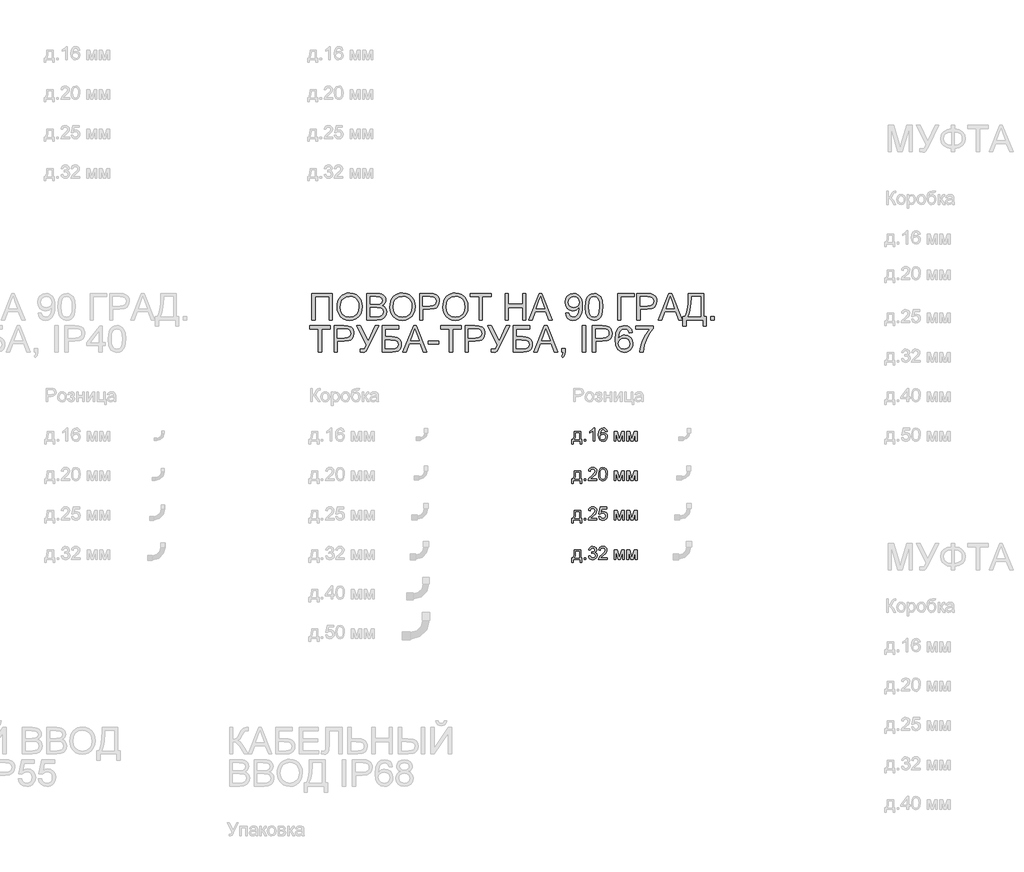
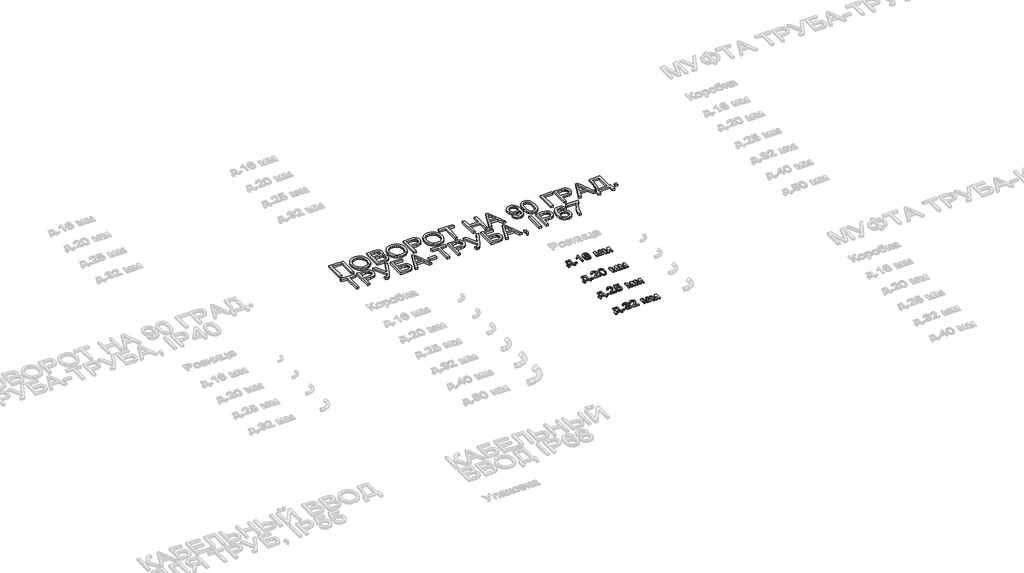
# One storey, part 66 of 98: 5 proxies.
"""IFC4 building model written with IfcOpenShell, lengths in millimetres."""

from ifc_helpers import new_model, si_unit, origin, origin_with_axes, place, context, project, spatial, polyline, outline, extrude, element, save

model = new_model("IFC4")

# Units and contexts
model_context = context("Model", 3, world=origin())
ifc_project = project(units=[si_unit("LENGTHUNIT", "METRE", prefix="MILLI")], contexts=[model_context])

# Site, building, storey
site = spatial("IfcSite", under=ifc_project)
building = spatial("IfcBuilding", under=site)
storey = spatial("IfcBuildingStorey", under=building, Name="Этаж 01", Elevation=0.0)

# Proxies
placement = place(None, origin())
element("IfcBuildingElementProxy", 1, Name="100", ObjectType="100", at=placement, inside=storey, context=model_context, shape_type="SweptSolid", body=[
    extrude(outline(polyline([(5978.0527037, -20985.7395637), (6025.1415991, -20985.7395637), (6025.1415991, -21046.9551277), (6034.5593781, -21046.9551277), (6034.5593781, -21079.9173545), (6022.0023394, -21079.9173545), (6022.0023394, -21059.5121665), (5970.2045544, -21059.5121665), (5970.2045544, -21079.9173545), (5957.6475157, -21079.9173545), (5957.6475157, -21046.9551277), (5965.4956649, -21046.9551277), (5975.1954868, -21023.0060098), (5978.0527037, -20985.7395637)]), holes=[polyline([(5989.0401126, -20998.2966025), (5986.0970566, -21026.905559), (5979.6223335, -21046.9551277), (6012.5845603, -21046.9551277), (6012.5845603, -20998.2966025), (5989.0401126, -20998.2966025)])]), origin_with_axes(), (0.0, 0.0, 1.0), 10.0),
    extrude(outline(polyline([(6051.8253064, -21059.5121665), (6051.8253064, -21046.9551277), (6064.3823452, -21046.9551277), (6064.3823452, -21059.5121665), (6051.8253064, -21059.5121665)])), origin_with_axes(), (0.0, 0.0, 1.0), 10.0),
    extrude(outline(polyline([(6131.8764286, -21059.5121665), (6119.3193898, -21059.5121665), (6119.3193898, -20981.2268779), (6107.4245386, -20989.7004265), (6094.2053123, -20996.0402596), (6094.2053123, -20984.1699338), (6112.6116748, -20972.4222355), (6123.7830247, -20959.0558563), (6131.8764286, -20959.0558563), (6131.8764286, -21059.5121665)])), origin_with_axes(), (0.0, 0.0, 1.0), 10.0),
    extrude(outline(polyline([(6226.0542194, -20985.7395637), (6213.4971806, -20987.3091935), (6208.7392401, -20976.8368194), (6196.1576759, -20971.6128951), (6184.8269104, -20974.6540529), (6176.2552599, -20986.0706575), (6172.6868046, -21008.4501455), (6183.7600526, -20998.4314925), (6197.4820511, -20995.1573428), (6209.0825966, -20997.3952916), (6218.8192068, -21004.109138), (6225.4226886, -21014.3669143), (6227.6238492, -21027.2366527), (6223.4790454, -21044.5638947), (6212.0747035, -21056.8266279), (6195.6181156, -21061.0817963), (6181.3718854, -21058.2613677), (6170.0257915, -21049.8000818), (6162.6037722, -21034.8640728), (6160.1297658, -21012.6194748), (6162.8766181, -20987.6096305), (6171.1171747, -20970.5092491), (6182.3682324, -20961.9192045), (6196.9424908, -20959.0558563), (6207.9605566, -20960.8278213), (6216.7835931, -20966.1437161), (6222.9640106, -20974.5866079), (6226.0542194, -20985.7395637)]), holes=[polyline([(6172.6868046, -21027.040449), (6175.5930724, -21037.9174933), (6183.3185942, -21045.8146935), (6194.637097, -21048.5247575), (6202.9236389, -21047.1206746), (6209.4382159, -21042.9084257), (6213.6596618, -21036.2865498), (6215.0668104, -21027.6535857), (6213.6780559, -21019.3670437), (6209.5117923, -21013.0486705), (6202.8868507, -21009.0479538), (6194.1220622, -21007.7143815), (6178.9285358, -21013.0486705), (6174.2472374, -21019.2137596), (6172.6868046, -21027.040449)])]), origin_with_axes(), (0.0, 0.0, 1.0), 10.0),
    extrude(outline(polyline([(6280.991264, -20985.7395637), (6302.5981998, -20985.7395637), (6319.2509915, -21044.7968867), (6337.2036328, -20985.7395637), (6357.9031264, -20985.7395637), (6357.9031264, -21059.5121665), (6345.3460877, -21059.5121665), (6345.3460877, -21000.111487), (6327.2953444, -21059.5121665), (6310.814231, -21059.5121665), (6293.5483027, -20997.2665329), (6293.5483027, -21059.5121665), (6280.991264, -21059.5121665), (6280.991264, -20985.7395637)])), origin_with_axes(), (0.0, 0.0, 1.0), 10.0),
    extrude(outline(polyline([(6376.7386846, -20985.7395637), (6398.3456204, -20985.7395637), (6414.9984121, -21044.7968867), (6432.9510534, -20985.7395637), (6453.650547, -20985.7395637), (6453.650547, -21059.5121665), (6441.0935083, -21059.5121665), (6441.0935083, -21000.111487), (6423.042765, -21059.5121665), (6406.5616517, -21059.5121665), (6389.2957233, -20997.2665329), (6389.2957233, -21059.5121665), (6376.7386846, -21059.5121665), (6376.7386846, -20985.7395637)])), origin_with_axes(), (0.0, 0.0, 1.0), 10.0),
])
element("IfcBuildingElementProxy", 2, Name="100", ObjectType="100", at=placement, inside=storey, context=model_context, shape_type="SweptSolid", body=[
    extrude(outline(polyline([(5978.0527037, -21285.7395637), (6025.1415991, -21285.7395637), (6025.1415991, -21346.9551277), (6034.5593781, -21346.9551277), (6034.5593781, -21379.9173545), (6022.0023394, -21379.9173545), (6022.0023394, -21359.5121665), (5970.2045544, -21359.5121665), (5970.2045544, -21379.9173545), (5957.6475157, -21379.9173545), (5957.6475157, -21346.9551277), (5965.4956649, -21346.9551277), (5975.1954868, -21323.0060098), (5978.0527037, -21285.7395637)]), holes=[polyline([(5989.0401126, -21298.2966025), (5986.0970566, -21326.905559), (5979.6223335, -21346.9551277), (6012.5845603, -21346.9551277), (6012.5845603, -21298.2966025), (5989.0401126, -21298.2966025)])]), origin_with_axes(), (0.0, 0.0, 1.0), 10.0),
    extrude(outline(polyline([(6051.8253064, -21359.5121665), (6051.8253064, -21346.9551277), (6064.3823452, -21346.9551277), (6064.3823452, -21359.5121665), (6051.8253064, -21359.5121665)])), origin_with_axes(), (0.0, 0.0, 1.0), 10.0),
    extrude(outline(polyline([(6149.1423569, -21346.9551277), (6149.1423569, -21359.5121665), (6083.2179034, -21359.5121665), (6084.566804, -21350.8546768), (6092.194224, -21337.5250859), (6107.915048, -21322.9692216), (6129.5955602, -21302.0489988), (6135.0156883, -21287.8242283), (6129.9021285, -21276.3095219), (6116.5480121, -21271.6128951), (6102.62981, -21276.1991573), (6097.344572, -21288.8788234), (6084.7875332, -21287.3091935), (6087.8317567, -21275.1629563), (6094.4137787, -21266.2908689), (6104.1902428, -21260.8646095), (6116.8177923, -21259.0558563), (6129.5373122, -21261.0669445), (6139.2953822, -21267.1002093), (6145.5033908, -21276.1133182), (6147.5727271, -21287.0639389), (6145.3409096, -21298.9710528), (6137.921956, -21311.2828369), (6119.9325265, -21328.4874515), (6105.4870268, -21340.5662437), (6099.8216441, -21346.9551277), (6149.1423569, -21346.9551277)])), origin_with_axes(), (0.0, 0.0, 1.0), 10.0),
    extrude(outline(polyline([(6161.6993957, -21310.0933518), (6165.3904784, -21281.1900897), (6176.3533618, -21264.5250353), (6194.6616224, -21259.0558563), (6209.3278513, -21262.2932179), (6219.4568689, -21271.6251578), (6225.3429808, -21286.4875904), (6227.6238492, -21310.0933518), (6223.9695547, -21338.8739865), (6213.0434595, -21355.5758291), (6204.8120998, -21359.7053045), (6194.6616224, -21361.0817963), (6181.6140743, -21358.6905633), (6171.7057859, -21351.5168644), (6164.2009932, -21334.5268476), (6161.6993957, -21310.0933518)]), holes=[polyline([(6174.2564344, -21310.0688263), (6175.7279624, -21329.8210238), (6180.1425464, -21341.2529568), (6186.7153713, -21346.7068073), (6194.6616224, -21348.5247575), (6202.6078735, -21346.700676), (6209.1806985, -21341.2284313), (6213.5952825, -21329.7903669), (6215.0668104, -21310.0688263), (6213.6443334, -21290.7611529), (6209.3769022, -21279.2403151), (6202.81634, -21273.5197501), (6194.5144696, -21271.6128951), (6186.6540577, -21273.2928895), (6180.3387501, -21278.3328729), (6175.7770133, -21290.5710806), (6174.2564344, -21310.0688263)])]), origin_with_axes(), (0.0, 0.0, 1.0), 10.0),
    extrude(outline(polyline([(6280.991264, -21285.7395637), (6302.5981998, -21285.7395637), (6319.2509915, -21344.7968867), (6337.2036328, -21285.7395637), (6357.9031264, -21285.7395637), (6357.9031264, -21359.5121665), (6345.3460877, -21359.5121665), (6345.3460877, -21300.111487), (6327.2953444, -21359.5121665), (6310.814231, -21359.5121665), (6293.5483027, -21297.2665329), (6293.5483027, -21359.5121665), (6280.991264, -21359.5121665), (6280.991264, -21285.7395637)])), origin_with_axes(), (0.0, 0.0, 1.0), 10.0),
    extrude(outline(polyline([(6376.7386846, -21285.7395637), (6398.3456204, -21285.7395637), (6414.9984121, -21344.7968867), (6432.9510534, -21285.7395637), (6453.650547, -21285.7395637), (6453.650547, -21359.5121665), (6441.0935083, -21359.5121665), (6441.0935083, -21300.111487), (6423.042765, -21359.5121665), (6406.5616517, -21359.5121665), (6389.2957233, -21297.2665329), (6389.2957233, -21359.5121665), (6376.7386846, -21359.5121665), (6376.7386846, -21285.7395637)])), origin_with_axes(), (0.0, 0.0, 1.0), 10.0),
])
element("IfcBuildingElementProxy", 3, Name="100", ObjectType="100", at=placement, inside=storey, context=model_context, shape_type="SweptSolid", body=[
    extrude(outline(polyline([(5978.0527037, -21585.7395637), (6025.1415991, -21585.7395637), (6025.1415991, -21646.9551277), (6034.5593781, -21646.9551277), (6034.5593781, -21679.9173545), (6022.0023394, -21679.9173545), (6022.0023394, -21659.5121665), (5970.2045544, -21659.5121665), (5970.2045544, -21679.9173545), (5957.6475157, -21679.9173545), (5957.6475157, -21646.9551277), (5965.4956649, -21646.9551277), (5975.1954868, -21623.0060098), (5978.0527037, -21585.7395637)]), holes=[polyline([(5989.0401126, -21598.2966025), (5986.0970566, -21626.905559), (5979.6223335, -21646.9551277), (6012.5845603, -21646.9551277), (6012.5845603, -21598.2966025), (5989.0401126, -21598.2966025)])]), origin_with_axes(), (0.0, 0.0, 1.0), 10.0),
    extrude(outline(polyline([(6051.8253064, -21659.5121665), (6051.8253064, -21646.9551277), (6064.3823452, -21646.9551277), (6064.3823452, -21659.5121665), (6051.8253064, -21659.5121665)])), origin_with_axes(), (0.0, 0.0, 1.0), 10.0),
    extrude(outline(polyline([(6149.1423569, -21646.9551277), (6149.1423569, -21659.5121665), (6083.2179034, -21659.5121665), (6084.566804, -21650.8546768), (6092.194224, -21637.5250859), (6107.915048, -21622.9692216), (6129.5955602, -21602.0489988), (6135.0156883, -21587.8242283), (6129.9021285, -21576.3095219), (6116.5480121, -21571.6128951), (6102.62981, -21576.1991573), (6097.344572, -21588.8788234), (6084.7875332, -21587.3091935), (6087.8317567, -21575.1629563), (6094.4137787, -21566.2908689), (6104.1902428, -21560.8646095), (6116.8177923, -21559.0558563), (6129.5373122, -21561.0669445), (6139.2953822, -21567.1002093), (6145.5033908, -21576.1133182), (6147.5727271, -21587.0639389), (6145.3409096, -21598.9710528), (6137.921956, -21611.2828369), (6119.9325265, -21628.4874515), (6105.4870268, -21640.5662437), (6099.8216441, -21646.9551277), (6149.1423569, -21646.9551277)])), origin_with_axes(), (0.0, 0.0, 1.0), 10.0),
    extrude(outline(polyline([(6161.6993957, -21632.8284591), (6174.2564344, -21631.2588292), (6180.5840048, -21644.1960127), (6193.7051292, -21648.5247575), (6202.7059754, -21647.019507), (6209.4504786, -21642.5037555), (6213.6627275, -21635.4986692), (6215.0668104, -21626.5254142), (6209.8060979, -21611.6139307), (6203.1995504, -21607.5120464), (6193.901333, -21606.1447517), (6182.8771359, -21608.3275182), (6175.8260643, -21613.9929009), (6163.2690255, -21612.4232711), (6174.2564344, -21560.6254862), (6222.9149597, -21560.6254862), (6222.9149597, -21573.1825249), (6184.4099775, -21573.1825249), (6179.0389004, -21600.847251), (6188.0090897, -21595.4025974), (6197.4084747, -21593.5877129), (6209.1408446, -21595.8379245), (6218.8805204, -21602.5885591), (6225.438017, -21612.8769922), (6227.6238492, -21625.7405993), (6225.6556805, -21638.2976381), (6219.7511745, -21649.0397923), (6208.4449345, -21658.0712953), (6193.6560783, -21661.0817963), (6181.3228344, -21659.1473501), (6171.4973195, -21653.3440117), (6164.7620133, -21644.3462312), (6161.6993957, -21632.8284591)])), origin_with_axes(), (0.0, 0.0, 1.0), 10.0),
    extrude(outline(polyline([(6280.991264, -21585.7395637), (6302.5981998, -21585.7395637), (6319.2509915, -21644.7968867), (6337.2036328, -21585.7395637), (6357.9031264, -21585.7395637), (6357.9031264, -21659.5121665), (6345.3460877, -21659.5121665), (6345.3460877, -21600.111487), (6327.2953444, -21659.5121665), (6310.814231, -21659.5121665), (6293.5483027, -21597.2665329), (6293.5483027, -21659.5121665), (6280.991264, -21659.5121665), (6280.991264, -21585.7395637)])), origin_with_axes(), (0.0, 0.0, 1.0), 10.0),
    extrude(outline(polyline([(6376.7386846, -21585.7395637), (6398.3456204, -21585.7395637), (6414.9984121, -21644.7968867), (6432.9510534, -21585.7395637), (6453.650547, -21585.7395637), (6453.650547, -21659.5121665), (6441.0935083, -21659.5121665), (6441.0935083, -21600.111487), (6423.042765, -21659.5121665), (6406.5616517, -21659.5121665), (6389.2957233, -21597.2665329), (6389.2957233, -21659.5121665), (6376.7386846, -21659.5121665), (6376.7386846, -21585.7395637)])), origin_with_axes(), (0.0, 0.0, 1.0), 10.0),
])
element("IfcBuildingElementProxy", 4, Name="100", ObjectType="100", at=placement, inside=storey, context=model_context, shape_type="SweptSolid", body=[
    extrude(outline(polyline([(5978.0527037, -21885.7395637), (6025.1415991, -21885.7395637), (6025.1415991, -21946.9551277), (6034.5593781, -21946.9551277), (6034.5593781, -21979.9173545), (6022.0023394, -21979.9173545), (6022.0023394, -21959.5121665), (5970.2045544, -21959.5121665), (5970.2045544, -21979.9173545), (5957.6475157, -21979.9173545), (5957.6475157, -21946.9551277), (5965.4956649, -21946.9551277), (5975.1954868, -21923.0060098), (5978.0527037, -21885.7395637)]), holes=[polyline([(5989.0401126, -21898.2966025), (5986.0970566, -21926.905559), (5979.6223335, -21946.9551277), (6012.5845603, -21946.9551277), (6012.5845603, -21898.2966025), (5989.0401126, -21898.2966025)])]), origin_with_axes(), (0.0, 0.0, 1.0), 10.0),
    extrude(outline(polyline([(6051.8253064, -21959.5121665), (6051.8253064, -21946.9551277), (6064.3823452, -21946.9551277), (6064.3823452, -21959.5121665), (6051.8253064, -21959.5121665)])), origin_with_axes(), (0.0, 0.0, 1.0), 10.0),
    extrude(outline(polyline([(6084.7875332, -21932.8284591), (6097.344572, -21931.2588292), (6104.2730162, -21944.4780556), (6117.2347252, -21948.5247575), (6125.8431639, -21947.1329373), (6132.4895652, -21942.9574767), (6138.154948, -21929.1741646), (6132.5386162, -21916.1879302), (6118.2647948, -21911.049845), (6109.4601524, -21912.4232711), (6110.8581039, -21899.8662323), (6112.8691922, -21900.0133851), (6127.1184881, -21896.4081416), (6131.8641659, -21891.8341421), (6133.4460584, -21885.3226308), (6128.8597962, -21875.5001815), (6117.0385215, -21871.6128951), (6105.0700939, -21875.5369697), (6098.9142018, -21887.3091935), (6086.3571631, -21885.7395637), (6090.0543771, -21874.4639805), (6096.6333335, -21866.0456142), (6105.6341796, -21860.8032958), (6116.5970631, -21859.0558563), (6131.7415385, -21862.5016843), (6142.33654, -21871.9194634), (6146.0030972, -21884.5868668), (6142.520481, -21896.1628869), (6132.2197851, -21904.47702), (6145.9049953, -21913.0609332), (6150.7119867, -21929.3948938), (6148.308491, -21941.6331015), (6141.0980039, -21951.860221), (6130.2148282, -21958.7764025), (6116.7932668, -21961.0817963), (6104.6531609, -21959.1136276), (6094.769398, -21953.2091216), (6087.8961361, -21944.1776186), (6084.7875332, -21932.8284591)])), origin_with_axes(), (0.0, 0.0, 1.0), 10.0),
    extrude(outline(polyline([(6226.0542194, -21946.9551277), (6226.0542194, -21959.5121665), (6160.1297658, -21959.5121665), (6161.4786665, -21950.8546768), (6169.1060865, -21937.5250859), (6184.8269104, -21922.9692216), (6206.5074227, -21902.0489988), (6211.9275507, -21887.8242283), (6206.813991, -21876.3095219), (6193.4598746, -21871.6128951), (6179.5416724, -21876.1991573), (6174.2564344, -21888.8788234), (6161.6993957, -21887.3091935), (6164.7436192, -21875.1629563), (6171.3256412, -21866.2908689), (6181.1021052, -21860.8646095), (6193.7296547, -21859.0558563), (6206.4491747, -21861.0669445), (6216.2072446, -21867.1002093), (6222.4152533, -21876.1133182), (6224.4845895, -21887.0639389), (6222.2527721, -21898.9710528), (6214.8338185, -21911.2828369), (6196.8443889, -21928.4874515), (6182.3988893, -21940.5662437), (6176.7335065, -21946.9551277), (6226.0542194, -21946.9551277)])), origin_with_axes(), (0.0, 0.0, 1.0), 10.0),
    extrude(outline(polyline([(6280.991264, -21885.7395637), (6302.5981998, -21885.7395637), (6319.2509915, -21944.7968867), (6337.2036328, -21885.7395637), (6357.9031264, -21885.7395637), (6357.9031264, -21959.5121665), (6345.3460877, -21959.5121665), (6345.3460877, -21900.111487), (6327.2953444, -21959.5121665), (6310.814231, -21959.5121665), (6293.5483027, -21897.2665329), (6293.5483027, -21959.5121665), (6280.991264, -21959.5121665), (6280.991264, -21885.7395637)])), origin_with_axes(), (0.0, 0.0, 1.0), 10.0),
    extrude(outline(polyline([(6376.7386846, -21885.7395637), (6398.3456204, -21885.7395637), (6414.9984121, -21944.7968867), (6432.9510534, -21885.7395637), (6453.650547, -21885.7395637), (6453.650547, -21959.5121665), (6441.0935083, -21959.5121665), (6441.0935083, -21900.111487), (6423.042765, -21959.5121665), (6406.5616517, -21959.5121665), (6389.2957233, -21897.2665329), (6389.2957233, -21959.5121665), (6376.7386846, -21959.5121665), (6376.7386846, -21885.7395637)])), origin_with_axes(), (0.0, 0.0, 1.0), 10.0),
])
element("IfcBuildingElementProxy", 5, Name="200", ObjectType="200", at=placement, inside=storey, context=model_context, shape_type="SweptSolid", body=[
    extrude(outline(polyline([(3982.4509116, -19936.6247283), (4139.4138962, -19936.6247283), (4139.4138962, -20137.5373486), (4114.2998187, -20137.5373486), (4114.2998187, -19961.7388059), (4007.5649892, -19961.7388059), (4007.5649892, -20137.5373486), (3982.4509116, -20137.5373486), (3982.4509116, -19936.6247283)])), origin_with_axes(), (0.0, 0.0, 1.0), 20.0),
    extrude(outline(polyline([(4173.9457529, -20039.7297888), (4175.6196159, -20016.1638814), (4180.6412052, -19995.3019065), (4189.0105206, -19977.1438644), (4200.7275621, -19961.6897549), (4215.0902883, -19949.3503797), (4231.3966578, -19940.5365402), (4249.6466704, -19935.2482365), (4269.8403263, -19933.4854686), (4296.1929398, -19936.7964066), (4319.8232267, -19946.7292204), (4339.4435997, -19962.5849344), (4353.7664721, -19983.6645728), (4362.5220636, -20008.9503286), (4365.4405941, -20037.424395), (4362.3687794, -20066.2786061), (4353.1533354, -20091.9199812), (4338.3031656, -20113.0364077), (4318.3271732, -20128.3157733), (4294.8992215, -20137.5863995), (4269.6931735, -20140.6766083), (4242.9358897, -20137.2614371), (4219.1707128, -20127.0159236), (4199.5993906, -20110.865904), (4185.4236711, -20089.7372147), (4176.8152324, -20065.4263462), (4173.9457529, -20039.7297888)]), holes=[polyline([(4199.0598304, -20039.9750435), (4204.0814196, -20071.4044286), (4219.1461873, -20095.3535465), (4241.7893241, -20110.5102847), (4269.5460207, -20115.5625308), (4297.7073874, -20110.4612338), (4320.3873124, -20095.1573428), (4329.1107142, -20083.8848253), (4335.3417155, -20070.4724609), (4340.3265165, -20037.2281913), (4338.192801, -20014.995856), (4331.7916542, -19995.7801531), (4321.2886233, -19980.0654606), (4306.849255, -19968.3361563), (4289.4300425, -19961.0336987), (4269.9874791, -19958.5995462), (4242.9726779, -19963.2900416), (4220.0045786, -19977.3615279), (4210.8412513, -19988.3106158), (4204.2960175, -20002.3958977), (4199.0598304, -20039.9750435)])]), origin_with_axes(), (0.0, 0.0, 1.0), 20.0),
    extrude(outline(polyline([(4399.9724507, -20137.5373486), (4399.9724507, -19936.6247283), (4476.6390585, -19936.6247283), (4497.7248282, -19938.1023877), (4514.1875475, -19942.5353657), (4526.8058999, -19950.034027), (4536.358569, -19960.7087363), (4542.3734397, -19973.265775), (4544.3783965, -19986.411425), (4542.6922707, -19998.5086113), (4537.6338933, -20009.8822963), (4529.166476, -20019.8335043), (4517.2532308, -20027.6632594), (4531.4841326, -20035.0944757), (4541.9994263, -20046.4007157), (4548.4925435, -20060.8339526), (4550.6569159, -20077.6461598), (4544.7462785, -20104.6486982), (4530.1045751, -20123.8766639), (4508.2523846, -20134.0792579), (4476.0504473, -20137.5373486), (4399.9724507, -20137.5373486)]), holes=[polyline([(4425.0865282, -20112.4232711), (4476.5900076, -20112.4232711), (4495.229362, -20111.4422524), (4510.9992368, -20105.9730734), (4521.4470855, -20094.8139862), (4525.5428384, -20077.8914145), (4520.735847, -20058.3691433), (4514.4389335, -20051.3119403), (4505.1621758, -20046.7195467), (4474.1374609, -20043.3595578), (4425.0865282, -20043.3595578), (4425.0865282, -20112.4232711)]), polyline([(4425.0865282, -20018.2454803), (4470.9491503, -20018.2454803), (4497.7309595, -20016.0872393), (4513.8441909, -20006.7920875), (4519.264319, -19990.4336015), (4514.2120729, -19974.05059), (4499.7420478, -19964.3630308), (4467.4665341, -19961.7388059), (4425.0865282, -19961.7388059), (4425.0865282, -20018.2454803)])]), origin_with_axes(), (0.0, 0.0, 1.0), 20.0),
    extrude(outline(polyline([(4575.7709935, -20039.7297888), (4577.4448565, -20016.1638814), (4582.4664458, -19995.3019065), (4590.8357612, -19977.1438644), (4602.5528027, -19961.6897549), (4616.9155289, -19949.3503797), (4633.2218984, -19940.5365402), (4651.471911, -19935.2482365), (4671.6655669, -19933.4854686), (4698.0181804, -19936.7964066), (4721.6484673, -19946.7292204), (4741.2688403, -19962.5849344), (4755.5917127, -19983.6645728), (4764.3473042, -20008.9503286), (4767.2658347, -20037.424395), (4764.19402, -20066.2786061), (4754.978576, -20091.9199812), (4740.1284062, -20113.0364077), (4720.1524138, -20128.3157733), (4696.7244621, -20137.5863995), (4671.5184141, -20140.6766083), (4644.7611303, -20137.2614371), (4620.9959534, -20127.0159236), (4601.4246312, -20110.865904), (4587.2489117, -20089.7372147), (4578.640473, -20065.4263462), (4575.7709935, -20039.7297888)]), holes=[polyline([(4600.885071, -20039.9750435), (4605.9066602, -20071.4044286), (4620.9714279, -20095.3535465), (4643.6145647, -20110.5102847), (4671.3712613, -20115.5625308), (4699.532628, -20110.4612338), (4722.212553, -20095.1573428), (4730.9359548, -20083.8848253), (4737.1669561, -20070.4724609), (4742.1517571, -20037.2281913), (4740.0180416, -20014.995856), (4733.6168948, -19995.7801531), (4723.1138639, -19980.0654606), (4708.6744956, -19968.3361563), (4691.2552831, -19961.0336987), (4671.8127197, -19958.5995462), (4644.7979185, -19963.2900416), (4621.8298192, -19977.3615279), (4612.6664919, -19988.3106158), (4606.1212581, -20002.3958977), (4600.885071, -20039.9750435)])]), origin_with_axes(), (0.0, 0.0, 1.0), 20.0),
    extrude(outline(polyline([(4801.7976913, -20137.5373486), (4801.7976913, -19936.6247283), (4876.2570071, -19936.6247283), (4906.2761779, -19938.5377147), (4930.6790169, -19947.9309683), (4939.5511044, -19956.2573641), (4946.4979427, -19967.3551376), (4950.9861031, -19980.4456053), (4952.4821565, -19994.7500836), (4948.4415859, -20018.4294213), (4936.3198742, -20038.160159), (4926.612388, -20045.9286004), (4913.6522119, -20051.4774872), (4877.9737898, -20055.9165966), (4826.9117688, -20055.9165966), (4826.9117688, -20137.5373486), (4801.7976913, -20137.5373486)]), holes=[polyline([(4826.9117688, -20030.8025191), (4879.4453177, -20030.8025191), (4901.7144412, -20028.4971252), (4916.429721, -20021.5809437), (4924.6334895, -20010.4831702), (4927.368079, -19995.6330003), (4925.7555296, -19984.3512858), (4920.9178813, -19974.8354049), (4913.4560082, -19967.6739687), (4903.9707841, -19963.4555885), (4878.8567065, -19961.7388059), (4826.9117688, -19961.7388059), (4826.9117688, -20030.8025191)])]), origin_with_axes(), (0.0, 0.0, 1.0), 20.0),
    extrude(outline(polyline([(4977.596234, -20039.7297888), (4979.2700971, -20016.1638814), (4984.2916864, -19995.3019065), (4992.6610018, -19977.1438644), (5004.3780433, -19961.6897549), (5018.7407695, -19949.3503797), (5035.047139, -19940.5365402), (5053.2971516, -19935.2482365), (5073.4908075, -19933.4854686), (5099.843421, -19936.7964066), (5123.4737079, -19946.7292204), (5143.0940809, -19962.5849344), (5157.4169533, -19983.6645728), (5166.1725448, -20008.9503286), (5169.0910753, -20037.424395), (5166.0192606, -20066.2786061), (5156.8038166, -20091.9199812), (5141.9536468, -20113.0364077), (5121.9776544, -20128.3157733), (5098.5497027, -20137.5863995), (5073.3436547, -20140.6766083), (5046.5863709, -20137.2614371), (5022.821194, -20127.0159236), (5003.2498718, -20110.865904), (4989.0741523, -20089.7372147), (4980.4657136, -20065.4263462), (4977.596234, -20039.7297888)]), holes=[polyline([(5002.7103116, -20039.9750435), (5007.7319008, -20071.4044286), (5022.7966685, -20095.3535465), (5045.4398053, -20110.5102847), (5073.1965019, -20115.5625308), (5101.3578686, -20110.4612338), (5124.0377936, -20095.1573428), (5132.7611954, -20083.8848253), (5138.9921967, -20070.4724609), (5143.9769977, -20037.2281913), (5141.8432822, -20014.995856), (5135.4421354, -19995.7801531), (5124.9391045, -19980.0654606), (5110.4997362, -19968.3361563), (5093.0805237, -19961.0336987), (5073.6379603, -19958.5995462), (5046.6231591, -19963.2900416), (5023.6550598, -19977.3615279), (5014.4917325, -19988.3106158), (5007.9464987, -20002.3958977), (5002.7103116, -20039.9750435)])]), origin_with_axes(), (0.0, 0.0, 1.0), 20.0),
    extrude(outline(polyline([(5253.851087, -20137.5373486), (5253.851087, -19961.7388059), (5187.9266334, -19961.7388059), (5187.9266334, -19936.6247283), (5344.889618, -19936.6247283), (5344.889618, -19961.7388059), (5278.9651645, -19961.7388059), (5278.9651645, -20137.5373486), (5253.851087, -20137.5373486)])), origin_with_axes(), (0.0, 0.0, 1.0), 20.0),
    extrude(outline(polyline([(5451.6244476, -20137.5373486), (5451.6244476, -19936.6247283), (5476.7385251, -19936.6247283), (5476.7385251, -20018.2454803), (5583.4733546, -20018.2454803), (5583.4733546, -19936.6247283), (5608.5874322, -19936.6247283), (5608.5874322, -20137.5373486), (5583.4733546, -20137.5373486), (5583.4733546, -20043.3595578), (5476.7385251, -20043.3595578), (5476.7385251, -20137.5373486), (5451.6244476, -20137.5373486)])), origin_with_axes(), (0.0, 0.0, 1.0), 20.0),
    extrude(outline(polyline([(5629.139773, -20137.5373486), (5709.3380479, -19936.6247283), (5730.7242546, -19936.6247283), (5810.9225295, -20137.5373486), (5784.3859749, -20137.5373486), (5761.3810875, -20074.7521548), (5678.6321641, -20074.7521548), (5655.6763276, -20137.5373486), (5629.139773, -20137.5373486)]), holes=[polyline([(5687.8537394, -20049.6380772), (5752.2085631, -20049.6380772), (5734.1087689, -20000.243788), (5720.0311512, -19961.7388059), (5707.5231634, -19995.9273059), (5687.8537394, -20049.6380772)])]), origin_with_axes(), (0.0, 0.0, 1.0), 20.0),
    extrude(outline(polyline([(5909.9563626, -20087.3091935), (5935.0704402, -20084.1699338), (5939.3623968, -20098.4253612), (5946.3521547, -20108.1313145), (5955.8680356, -20113.7047267), (5967.7383613, -20115.5625308), (5988.0699729, -20110.7800648), (6001.853285, -20098.0022969), (6010.0693162, -20076.1746318), (6013.6990853, -20047.0383778), (6013.5519325, -20042.1332845), (6004.8515233, -20052.7528115), (5993.4655755, -20061.1650464), (5980.2156923, -20066.6464881), (5965.9234768, -20068.4736354), (5943.0228226, -20064.0100005), (5923.9604039, -20050.6190959), (5911.1029282, -20029.931865), (5906.8171029, -20003.5792514), (5911.3113946, -19976.3559838), (5924.7942698, -19955.0188281), (5945.0461736, -19941.2232533), (5969.8475514, -19936.6247283), (5988.5788764, -19939.2489532), (6005.6302068, -19947.1216279), (6019.8917655, -19959.8503449), (6030.253775, -19977.0426969), (6036.5629513, -20000.8078737), (6038.66601, -20033.2550657), (6036.5690826, -20067.6581636), (6030.2783005, -20094.2499005), (6019.848846, -20114.2320242), (6005.3359012, -20128.8062826), (5987.3648658, -20137.7090269), (5966.5611389, -20140.6766083), (5945.0890932, -20137.175598), (5927.9580549, -20126.672567), (5915.9773646, -20109.829703), (5909.9563626, -20087.3091935)]), holes=[polyline([(6013.5519325, -20002.9906402), (6010.8418684, -19985.9699666), (6002.7116763, -19972.8733676), (5990.0933239, -19964.5224463), (5973.9187789, -19961.7388059), (5957.1433599, -19964.7370441), (5943.7034043, -19973.7317589), (5934.8742364, -19987.4966769), (5931.9311805, -20004.8055248), (5934.7148209, -20020.3240136), (5943.0657422, -20032.6419291), (5956.174604, -20040.6801506), (5973.2320658, -20043.3595578), (5989.2778522, -20040.6801506), (6002.1966415, -20032.6419291), (6010.7131097, -20019.8702925), (6013.5519325, -20002.9906402)])]), origin_with_axes(), (0.0, 0.0, 1.0), 20.0),
    extrude(outline(polyline([(6060.6408278, -20038.6997192), (6062.4863692, -20006.5407015), (6068.0229932, -19980.8931951), (6077.1955176, -19961.3647925), (6089.9487601, -19947.5630863), (6106.3746912, -19939.3593178), (6126.5652814, -19936.6247283), (6142.0408506, -19938.2434091), (6155.8977391, -19943.0994514), (6167.486022, -19951.002783), (6176.1557743, -19961.7633313), (6187.9279982, -19991.4881965), (6192.4897349, -20038.6997192), (6190.6625877, -20070.674796), (6185.1811459, -20096.2609888), (6176.0638038, -20115.8077854), (6163.3289554, -20129.6646739), (6146.8662362, -20137.9236247), (6126.5652814, -20140.6766083), (6100.4701852, -20135.8941424), (6080.6536084, -20121.5467446), (6071.8980169, -20106.4175975), (6065.644023, -20087.5667109), (6060.6408278, -20038.6997192)]), holes=[polyline([(6085.7549054, -20038.6506683), (6088.6979613, -20078.1550632), (6097.5271292, -20101.0189292), (6110.6727792, -20111.9266304), (6126.5652814, -20115.5625308), (6142.4577836, -20111.9143676), (6155.6034335, -20100.9698783), (6164.4326014, -20078.0937496), (6167.3756574, -20038.6506683), (6164.5307033, -20000.0353215), (6155.995841, -19976.9936459), (6142.8747165, -19965.5525159), (6126.2709758, -19961.7388059), (6110.5501519, -19965.0987947), (6097.9195367, -19975.1787614), (6088.7960632, -19999.6551768), (6085.7549054, -20038.6506683)])]), origin_with_axes(), (0.0, 0.0, 1.0), 20.0),
    extrude(outline(polyline([(6305.5030838, -19936.6247283), (6431.0734715, -19936.6247283), (6431.0734715, -19961.7388059), (6330.6171614, -19961.7388059), (6330.6171614, -20137.5373486), (6305.5030838, -20137.5373486), (6305.5030838, -19936.6247283)])), origin_with_axes(), (0.0, 0.0, 1.0), 20.0),
    extrude(outline(polyline([(6453.0482894, -20137.5373486), (6453.0482894, -19936.6247283), (6527.5076052, -19936.6247283), (6557.526776, -19938.5377147), (6581.929615, -19947.9309683), (6590.8017025, -19956.2573641), (6597.7485408, -19967.3551376), (6602.2367011, -19980.4456053), (6603.7327546, -19994.7500836), (6599.692184, -20018.4294213), (6587.5704723, -20038.160159), (6577.8629861, -20045.9286004), (6564.90281, -20051.4774872), (6529.2243878, -20055.9165966), (6478.1623669, -20055.9165966), (6478.1623669, -20137.5373486), (6453.0482894, -20137.5373486)]), holes=[polyline([(6478.1623669, -20030.8025191), (6530.6959158, -20030.8025191), (6552.9650393, -20028.4971252), (6567.6803191, -20021.5809437), (6575.8840876, -20010.4831702), (6578.6186771, -19995.6330003), (6577.0061276, -19984.3512858), (6572.1684794, -19974.8354049), (6564.7066063, -19967.6739687), (6555.2213822, -19963.4555885), (6530.1073046, -19961.7388059), (6478.1623669, -19961.7388059), (6478.1623669, -20030.8025191)])]), origin_with_axes(), (0.0, 0.0, 1.0), 20.0),
    extrude(outline(polyline([(6614.8673163, -20137.5373486), (6695.0655913, -19936.6247283), (6716.4517979, -19936.6247283), (6796.6500729, -20137.5373486), (6770.1135183, -20137.5373486), (6747.1086308, -20074.7521548), (6664.3597074, -20074.7521548), (6641.4038709, -20137.5373486), (6614.8673163, -20137.5373486)]), holes=[polyline([(6673.5812827, -20049.6380772), (6737.9361064, -20049.6380772), (6719.8363123, -20000.243788), (6705.7586946, -19961.7388059), (6693.2507068, -19995.9273059), (6673.5812827, -20049.6380772)])]), origin_with_axes(), (0.0, 0.0, 1.0), 20.0),
    extrude(outline(polyline([(6842.3164912, -19936.6247283), (6961.6083595, -19936.6247283), (6961.6083595, -20112.4232711), (6980.4439177, -20112.4232711), (6980.4439177, -20184.626244), (6955.3298401, -20184.626244), (6955.3298401, -20137.5373486), (6826.6201927, -20137.5373486), (6826.6201927, -20184.626244), (6801.5061152, -20184.626244), (6801.5061152, -20112.4232711), (6817.2024137, -20112.4232711), (6828.1898226, -20089.6421785), (6836.0379718, -20057.5965911), (6840.7468614, -20016.2865087), (6842.3164912, -19965.7119314), (6842.3164912, -19936.6247283)]), holes=[polyline([(6936.494282, -19961.7388059), (6867.4305687, -19961.7388059), (6867.4305687, -19971.843298), (6862.3292717, -20040.6617566), (6854.7754281, -20080.4298002), (6842.3164912, -20112.4232711), (6936.494282, -20112.4232711), (6936.494282, -19961.7388059)])]), origin_with_axes(), (0.0, 0.0, 1.0), 20.0),
    extrude(outline(polyline([(7014.9757743, -20137.5373486), (7014.9757743, -20112.4232711), (7040.0898518, -20112.4232711), (7040.0898518, -20137.5373486), (7014.9757743, -20137.5373486)])), origin_with_axes(), (0.0, 0.0, 1.0), 20.0),
    extrude(outline(polyline([(4032.6790667, -20381.4869843), (4032.6790667, -20205.6884415), (3966.7546132, -20205.6884415), (3966.7546132, -20180.574364), (4123.7175978, -20180.574364), (4123.7175978, -20205.6884415), (4057.7931442, -20205.6884415), (4057.7931442, -20381.4869843), (4032.6790667, -20381.4869843)])), origin_with_axes(), (0.0, 0.0, 1.0), 20.0),
    extrude(outline(polyline([(4151.970935, -20381.4869843), (4151.970935, -20180.574364), (4226.4302508, -20180.574364), (4256.4494216, -20182.4873504), (4280.8522607, -20191.880604), (4289.7243481, -20200.2069998), (4296.6711864, -20211.3047733), (4301.1593468, -20224.395241), (4302.6554002, -20238.6997192), (4298.6148297, -20262.379057), (4286.4931179, -20282.1097947), (4276.7856318, -20289.8782361), (4263.8254556, -20295.4271229), (4228.1470335, -20299.8662323), (4177.0850125, -20299.8662323), (4177.0850125, -20381.4869843), (4151.970935, -20381.4869843)]), holes=[polyline([(4177.0850125, -20274.7521548), (4229.6185615, -20274.7521548), (4251.8876849, -20272.4467609), (4266.6029647, -20265.5305794), (4274.8067332, -20254.4328059), (4277.5413227, -20239.582636), (4275.9287733, -20228.3009215), (4271.091125, -20218.7850406), (4263.6292519, -20211.6236044), (4254.1440278, -20207.4052242), (4229.0299503, -20205.6884415), (4177.0850125, -20205.6884415), (4177.0850125, -20274.7521548)])]), origin_with_axes(), (0.0, 0.0, 1.0), 20.0),
    extrude(outline(polyline([(4323.0605882, -20180.574364), (4350.8724671, -20180.574364), (4410.9598596, -20299.5719267), (4465.0139874, -20180.574364), (4492.5806116, -20180.574364), (4416.3064113, -20337.0958902), (4395.5578667, -20375.5518214), (4385.710892, -20382.3576384), (4372.3567756, -20384.626244), (4349.7442956, -20381.4869843), (4349.7442956, -20359.5121665), (4369.5118215, -20359.5121665), (4384.1780504, -20353.9203601), (4397.7651587, -20328.4629261), (4323.0605882, -20180.574364)])), origin_with_axes(), (0.0, 0.0, 1.0), 20.0),
    extrude(outline(polyline([(4516.1250593, -20180.574364), (4641.695447, -20180.574364), (4641.695447, -20205.6884415), (4541.2391368, -20205.6884415), (4541.2391368, -20265.3343757), (4588.2789813, -20265.3343757), (4611.6640134, -20266.6096999), (4629.7270194, -20270.4356727), (4643.5961706, -20277.8055753), (4654.3996386, -20289.7126892), (4661.3526083, -20305.0411057), (4663.6702648, -20322.674916), (4662.0209272, -20337.4821663), (4657.0729144, -20351.2961352), (4648.8507518, -20363.3933215), (4637.3789649, -20373.0502239), (4619.6838409, -20379.3777942), (4592.7916671, -20381.4869843), (4516.1250593, -20381.4869843), (4516.1250593, -20180.574364)]), holes=[polyline([(4541.2391368, -20356.3729068), (4595.04801, -20356.3729068), (4614.0675091, -20354.3005049), (4627.6668802, -20348.0832991), (4635.8338605, -20337.7212896), (4638.5561873, -20323.2144763), (4636.9988202, -20312.4110083), (4632.3267188, -20303.5450523), (4624.8771084, -20296.9722273), (4614.9872141, -20293.0481527), (4577.1444196, -20290.4484532), (4541.2391368, -20290.4484532), (4541.2391368, -20356.3729068)])]), origin_with_axes(), (0.0, 0.0, 1.0), 20.0),
    extrude(outline(polyline([(4674.8048266, -20381.4869843), (4755.0031015, -20180.574364), (4776.3893082, -20180.574364), (4856.5875831, -20381.4869843), (4830.0510285, -20381.4869843), (4807.0461411, -20318.7017905), (4724.2972176, -20318.7017905), (4701.3413811, -20381.4869843), (4674.8048266, -20381.4869843)]), holes=[polyline([(4733.518793, -20293.5877129), (4797.8736167, -20293.5877129), (4779.7738225, -20244.1934237), (4765.6962048, -20205.6884415), (4753.188217, -20239.8769416), (4733.518793, -20293.5877129)])]), origin_with_axes(), (0.0, 0.0, 1.0), 20.0),
    extrude(outline(polyline([(4867.7221448, -20321.8410502), (4867.7221448, -20296.7269726), (4946.2036371, -20296.7269726), (4946.2036371, -20321.8410502), (4867.7221448, -20321.8410502)])), origin_with_axes(), (0.0, 0.0, 1.0), 20.0),
    extrude(outline(polyline([(5027.8243891, -20381.4869843), (5027.8243891, -20205.6884415), (4961.8999356, -20205.6884415), (4961.8999356, -20180.574364), (5118.8629202, -20180.574364), (5118.8629202, -20205.6884415), (5052.9384667, -20205.6884415), (5052.9384667, -20381.4869843), (5027.8243891, -20381.4869843)])), origin_with_axes(), (0.0, 0.0, 1.0), 20.0),
    extrude(outline(polyline([(5147.1162574, -20381.4869843), (5147.1162574, -20180.574364), (5221.5755733, -20180.574364), (5251.5947441, -20182.4873504), (5275.9975831, -20191.880604), (5284.8696705, -20200.2069998), (5291.8165089, -20211.3047733), (5296.3046692, -20224.395241), (5297.8007227, -20238.6997192), (5293.7601521, -20262.379057), (5281.6384403, -20282.1097947), (5271.9309542, -20289.8782361), (5258.9707781, -20295.4271229), (5223.2923559, -20299.8662323), (5172.230335, -20299.8662323), (5172.230335, -20381.4869843), (5147.1162574, -20381.4869843)]), holes=[polyline([(5172.230335, -20274.7521548), (5224.7638839, -20274.7521548), (5247.0330073, -20272.4467609), (5261.7482871, -20265.5305794), (5269.9520556, -20254.4328059), (5272.6866451, -20239.582636), (5271.0740957, -20228.3009215), (5266.2364475, -20218.7850406), (5258.7745743, -20211.6236044), (5249.2893502, -20207.4052242), (5224.1752727, -20205.6884415), (5172.230335, -20205.6884415), (5172.230335, -20274.7521548)])]), origin_with_axes(), (0.0, 0.0, 1.0), 20.0),
    extrude(outline(polyline([(5318.2059106, -20180.574364), (5346.0177895, -20180.574364), (5406.105182, -20299.5719267), (5460.1593099, -20180.574364), (5487.725934, -20180.574364), (5411.4517337, -20337.0958902), (5390.7031892, -20375.5518214), (5380.8562144, -20382.3576384), (5367.502098, -20384.626244), (5344.889618, -20381.4869843), (5344.889618, -20359.5121665), (5364.6571439, -20359.5121665), (5379.3233728, -20353.9203601), (5392.9104811, -20328.4629261), (5318.2059106, -20180.574364)])), origin_with_axes(), (0.0, 0.0, 1.0), 20.0),
    extrude(outline(polyline([(5511.2703817, -20180.574364), (5636.8407694, -20180.574364), (5636.8407694, -20205.6884415), (5536.3844593, -20205.6884415), (5536.3844593, -20265.3343757), (5583.4243037, -20265.3343757), (5606.8093359, -20266.6096999), (5624.8723418, -20270.4356727), (5638.741493, -20277.8055753), (5649.544961, -20289.7126892), (5656.4979307, -20305.0411057), (5658.8155873, -20322.674916), (5657.1662496, -20337.4821663), (5652.2182368, -20351.2961352), (5643.9960742, -20363.3933215), (5632.5242873, -20373.0502239), (5614.8291634, -20379.3777942), (5587.9369895, -20381.4869843), (5511.2703817, -20381.4869843), (5511.2703817, -20180.574364)]), holes=[polyline([(5536.3844593, -20356.3729068), (5590.1933324, -20356.3729068), (5609.2128316, -20354.3005049), (5622.8122027, -20348.0832991), (5630.9791829, -20337.7212896), (5633.7015097, -20323.2144763), (5632.1441426, -20312.4110083), (5627.4720413, -20303.5450523), (5620.0224309, -20296.9722273), (5610.1325366, -20293.0481527), (5572.289742, -20290.4484532), (5536.3844593, -20290.4484532), (5536.3844593, -20356.3729068)])]), origin_with_axes(), (0.0, 0.0, 1.0), 20.0),
    extrude(outline(polyline([(5669.950149, -20381.4869843), (5750.1484239, -20180.574364), (5771.5346306, -20180.574364), (5851.7329055, -20381.4869843), (5825.1963509, -20381.4869843), (5802.1914635, -20318.7017905), (5719.4425401, -20318.7017905), (5696.4867036, -20381.4869843), (5669.950149, -20381.4869843)]), holes=[polyline([(5728.6641154, -20293.5877129), (5793.0189391, -20293.5877129), (5774.9191449, -20244.1934237), (5760.8415272, -20205.6884415), (5748.3335394, -20239.8769416), (5728.6641154, -20293.5877129)])]), origin_with_axes(), (0.0, 0.0, 1.0), 20.0),
    extrude(outline(polyline([(5881.7030254, -20381.4869843), (5881.7030254, -20356.3729068), (5906.8171029, -20356.3729068), (5906.8171029, -20381.4869843), (5902.3044171, -20407.1651476), (5896.4673561, -20415.8410313), (5887.9815448, -20422.2973603), (5881.7030254, -20412.8795812), (5890.9246007, -20402.0393251), (5894.2110132, -20381.4869843), (5881.7030254, -20381.4869843)])), origin_with_axes(), (0.0, 0.0, 1.0), 20.0),
    extrude(outline(polyline([(6038.66601, -20381.4869843), (6038.66601, -20180.574364), (6063.7800875, -20180.574364), (6063.7800875, -20381.4869843), (6038.66601, -20381.4869843)])), origin_with_axes(), (0.0, 0.0, 1.0), 20.0),
    extrude(outline(polyline([(6114.0082426, -20381.4869843), (6114.0082426, -20180.574364), (6188.4675584, -20180.574364), (6218.4867292, -20182.4873504), (6242.8895683, -20191.880604), (6251.7616557, -20200.2069998), (6258.7084941, -20211.3047733), (6263.1966544, -20224.395241), (6264.6927078, -20238.6997192), (6260.6521373, -20262.379057), (6248.5304255, -20282.1097947), (6238.8229394, -20289.8782361), (6225.8627632, -20295.4271229), (6190.1843411, -20299.8662323), (6139.1223202, -20299.8662323), (6139.1223202, -20381.4869843), (6114.0082426, -20381.4869843)]), holes=[polyline([(6139.1223202, -20274.7521548), (6191.6558691, -20274.7521548), (6213.9249925, -20272.4467609), (6228.6402723, -20265.5305794), (6236.8440408, -20254.4328059), (6239.5786303, -20239.582636), (6237.9660809, -20228.3009215), (6233.1284327, -20218.7850406), (6225.6665595, -20211.6236044), (6216.1813354, -20207.4052242), (6191.0672579, -20205.6884415), (6139.1223202, -20205.6884415), (6139.1223202, -20274.7521548)])]), origin_with_axes(), (0.0, 0.0, 1.0), 20.0),
    extrude(outline(polyline([(6418.5164328, -20233.9417788), (6393.4023552, -20237.0810385), (6383.8864743, -20216.1362902), (6372.4943952, -20208.3004037), (6358.7233458, -20205.6884415), (6336.0618149, -20211.7707572), (6326.6256417, -20221.3786086), (6318.9185139, -20234.6039664), (6313.7129837, -20253.3107658), (6311.7816032, -20279.3629424), (6321.8554385, -20267.6091127), (6333.9280993, -20259.3256364), (6347.3251353, -20254.4144118), (6361.3720962, -20252.7773369), (6384.5731873, -20257.2532345), (6404.0464076, -20270.6809274), (6417.2533712, -20291.19648), (6421.6556924, -20316.9359569), (6419.5832905, -20334.9192551), (6413.3660848, -20351.5904408), (6403.5191101, -20365.7293722), (6390.5574011, -20376.1159072), (6375.0695691, -20382.4986598), (6357.6442253, -20384.626244), (6329.1517648, -20378.9853867), (6306.459577, -20362.062815), (6297.8005546, -20348.9539532), (6291.6155385, -20332.190797), (6286.6675257, -20287.701601), (6292.1612301, -20237.6819124), (6299.0283607, -20218.6041653), (6308.6423435, -20203.4811496), (6319.062601, -20193.4594309), (6331.1444589, -20186.3010604), (6360.2929757, -20180.574364), (6382.3291072, -20184.1182939), (6399.9751802, -20194.7500836), (6412.3360152, -20211.6358671), (6418.5164328, -20233.9417788)]), holes=[polyline([(6311.7816032, -20316.5435494), (6317.5941387, -20338.2976381), (6333.0451825, -20354.0920384), (6355.682188, -20359.5121665), (6372.2552719, -20356.7040006), (6385.2844259, -20348.2795029), (6393.7273176, -20335.035751), (6396.5416149, -20317.7698227), (6393.7641058, -20301.1967389), (6385.4315787, -20288.5599923), (6372.1816955, -20280.5585589), (6354.6521184, -20277.8914145), (6338.10356, -20280.5585589), (6324.2650656, -20288.5599923), (6314.9024688, -20300.8901705), (6311.7816032, -20316.5435494)])]), origin_with_axes(), (0.0, 0.0, 1.0), 20.0),
    extrude(outline(polyline([(6443.6305103, -20208.8277012), (6443.6305103, -20183.7136237), (6575.4794174, -20183.7136237), (6575.4794174, -20204.0207098), (6556.6867788, -20227.8042808), (6538.0780812, -20258.0503122), (6521.6644128, -20291.999689), (6509.456862, -20326.8932962), (6500.1371848, -20381.4869843), (6475.0231072, -20381.4869843), (6477.7393026, -20355.6003546), (6485.004972, -20324.833157), (6496.6239117, -20292.2204182), (6512.3999179, -20260.7971644), (6530.8185432, -20232.390543), (6550.3653398, -20208.8277012), (6443.6305103, -20208.8277012)])), origin_with_axes(), (0.0, 0.0, 1.0), 20.0),
])

save(model, "model.ifc")
